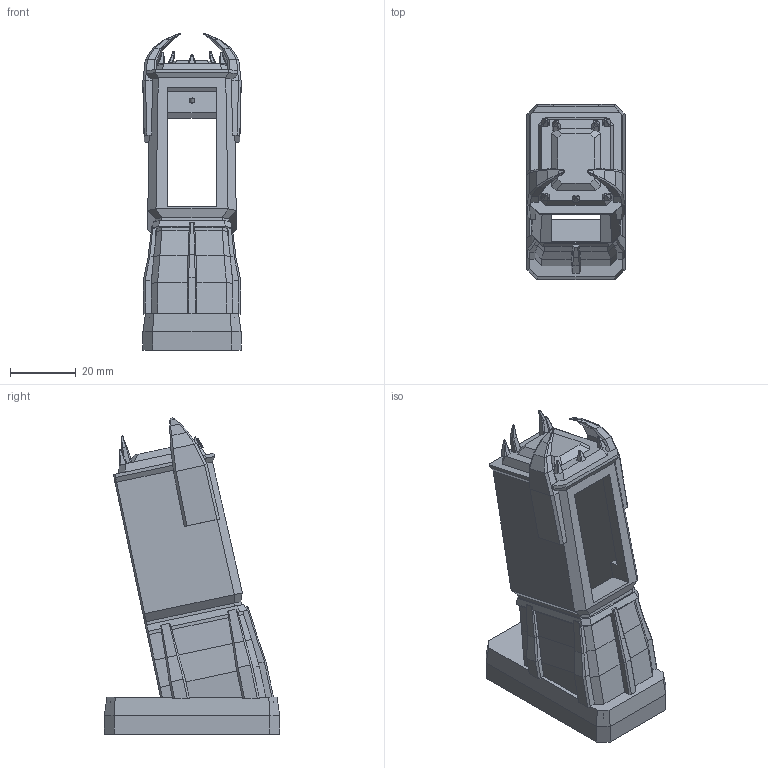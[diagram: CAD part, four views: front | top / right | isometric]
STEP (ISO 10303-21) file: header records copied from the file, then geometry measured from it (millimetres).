
FILE_DESCRIPTION(('Open CASCADE Model'),'2;1');
FILE_NAME('Open CASCADE Shape Model','2026-11-18T20:35:56',('Author'),( 'Open CASCADE'),'Open CASCADE STEP processor 7.9','Open CASCADE 7.9' ,'Unknown');
FILE_SCHEMA(('AUTOMOTIVE_DESIGN { 1 0 10303 214 1 1 1 1 }'));
Length unit declared in the file: millimetre
Products named in the file (1): Open CASCADE STEP translator 7.9 1
Bounding box: 30 x 53.5 x 96.66 mm (x, y, z)
Volume: 32335.3 mm3; surface area: 19972.3 mm2
Topology: 1 solids, 1 shells, 449 faces, 1155 edges, 710 vertices
Faces by surface type: bspline 286, plane 153, cylinder 10
Full cylindrical faces by diameter (mm): 1.6 x6
Entity records: 28434 total; most frequent: CARTESIAN_POINT 8725, DIRECTION 2323, ORIENTED_EDGE 2310, PCURVE 2310, DEFINITIONAL_REPRESENTATION 2310, LINE 1941, VECTOR 1941, B_SPLINE_CURVE_WITH_KNOTS 1484
